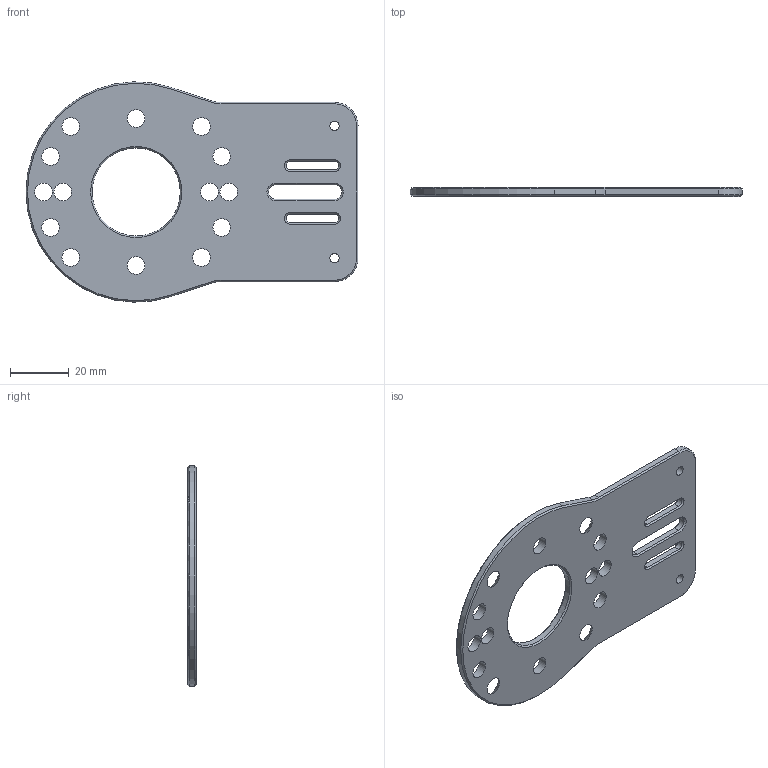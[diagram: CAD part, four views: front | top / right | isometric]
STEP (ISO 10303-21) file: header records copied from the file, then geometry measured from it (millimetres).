
FILE_DESCRIPTION (( 'STEP AP203' ), '1' );
FILE_NAME ('扜砉芛嘐隅啣.STEP', '2021-03-18T01:38:12', ( '' ), ( '' ), 'SwSTEP 2.0', 'SolidWorks 2016', '' );
FILE_SCHEMA (( 'CONFIG_CONTROL_DESIGN' ));
Length unit declared in the file: millimetre
Products named in the file (1): 扜砉芛嘐隅啣
Bounding box: 113 x 3 x 74.98 mm (x, y, z)
Volume: 16280 mm3; surface area: 13486 mm2
Topology: 1 solids, 1 shells, 91 faces, 223 edges, 134 vertices
Faces by surface type: plane 37, cone 28, cylinder 26
Full cylindrical faces by diameter (mm): 3.2 x2, 6 x10, 14.2 x2, 30 x1
Entity records: 2681 total; most frequent: DIRECTION 466, CARTESIAN_POINT 438, ORIENTED_EDGE 396, EDGE_CURVE 198, AXIS2_PLACEMENT_3D 178, EDGE_LOOP 152, VERTEX_POINT 130, VECTOR 110
